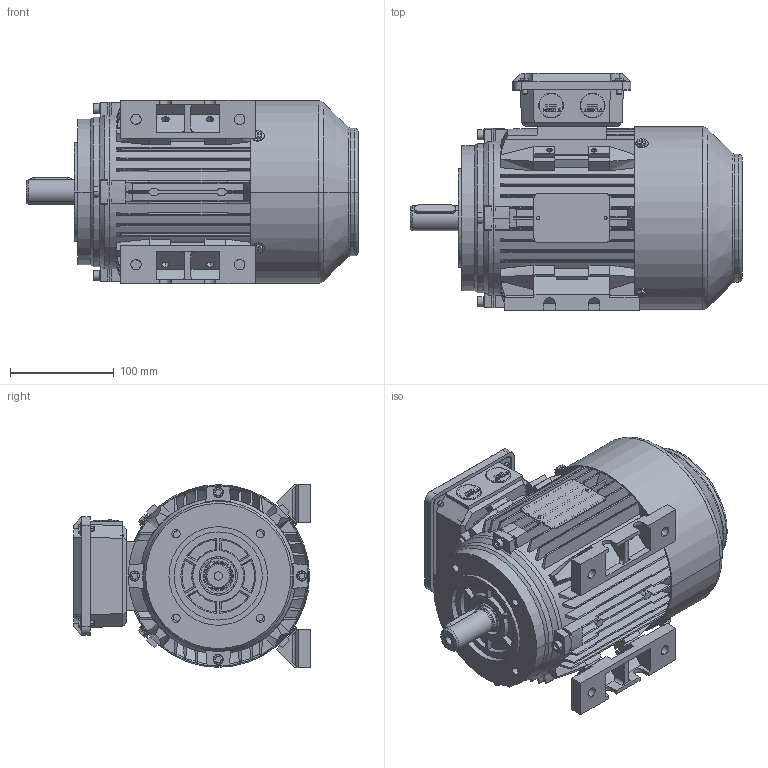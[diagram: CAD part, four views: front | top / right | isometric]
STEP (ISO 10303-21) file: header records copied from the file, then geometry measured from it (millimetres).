
FILE_DESCRIPTION (( 'STEP AP214' ), '1' );
FILE_NAME ('BCT4075.09A634.11.step', '2020-04-23T14:50:41', ( '' ), ( '' ), 'SwSTEP 2.0', 'SolidWorks 2019', '' );
FILE_SCHEMA (( 'AUTOMOTIVE_DESIGN' ));
Length unit declared in the file: millimetre
Products named in the file (1): BCT4075.09A634.11
Bounding box: 320 x 228.41 x 177.33 mm (x, y, z)
Volume: 2196575 mm3; surface area: 881367.1 mm2
Topology: 51 solids, 52 shells, 3409 faces, 9144 edges, 5959 vertices
Faces by surface type: plane 1790, cylinder 1122, cone 238, bspline 136, torus 123
Entity records: 122070 total; most frequent: CARTESIAN_POINT 35827, ORIENTED_EDGE 18244, DIRECTION 17424, EDGE_CURVE 9122, AXIS2_PLACEMENT_3D 6018, VERTEX_POINT 5959, VECTOR 5388, LINE 5388
